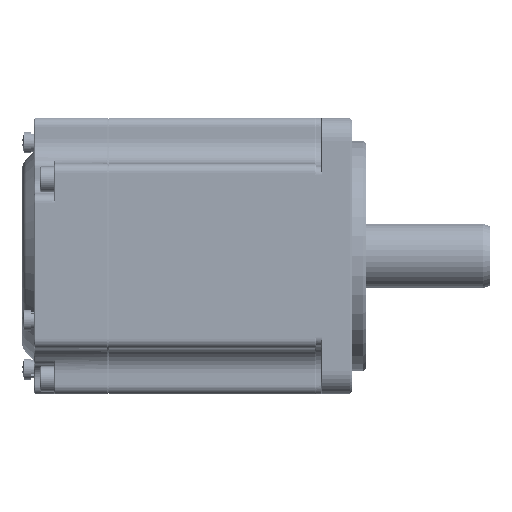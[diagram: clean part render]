
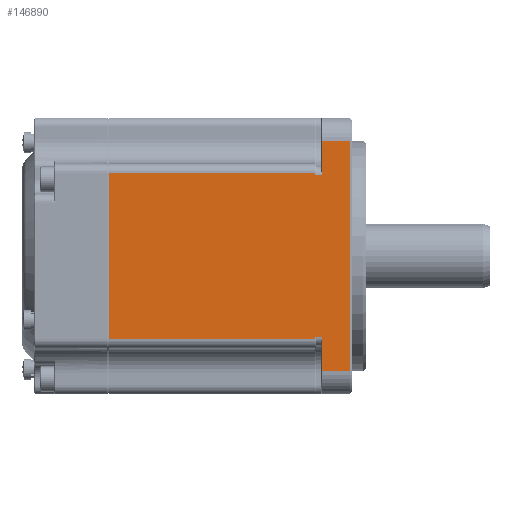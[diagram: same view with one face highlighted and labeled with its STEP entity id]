
A CAD part, front view. The second image highlights one B-rep face of the part: STEP entity #146890.
In plain terms, the highlighted planar face has unit normal (0, -1, 0).
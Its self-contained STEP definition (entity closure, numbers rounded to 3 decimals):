
#2679 = VECTOR ( 'NONE', #143625, 1000. ) ;
#5953 = EDGE_CURVE ( 'NONE', #11992, #76143, #140984, .T. ) ;
#7216 = VERTEX_POINT ( 'NONE', #51572 ) ;
#8967 = CARTESIAN_POINT ( 'NONE',  ( -114.001, -79.847, 163.323 ) ) ;
#9367 = CARTESIAN_POINT ( 'NONE',  ( -27.348, -79.847, 120.323 ) ) ;
#10181 = EDGE_LOOP ( 'NONE', ( #43757, #112998, #10726, #93420, #13031, #106988, #82189, #131146, #151254, #84979, #125781, #24429 ) ) ;
#10726 = ORIENTED_EDGE ( 'NONE', *, *, #71555, .T. ) ;
#11214 = CARTESIAN_POINT ( 'NONE',  ( 17.452, -79.847, 120.823 ) ) ;
#11388 = AXIS2_PLACEMENT_3D ( 'NONE', #101208, #91114, #104854 ) ;
#11992 = VERTEX_POINT ( 'NONE', #11214 ) ;
#12409 = EDGE_CURVE ( 'NONE', #156389, #31130, #146975, .T. ) ;
#12673 = FACE_OUTER_BOUND ( 'NONE', #10181, .T. ) ;
#13031 = ORIENTED_EDGE ( 'NONE', *, *, #14265, .T. ) ;
#13587 = VECTOR ( 'NONE', #131991, 1000. ) ;
#14265 = EDGE_CURVE ( 'NONE', #76143, #98615, #59013, .T. ) ;
#15978 = DIRECTION ( 'NONE',  ( 1., 0., 0. ) ) ;
#16388 = CARTESIAN_POINT ( 'NONE',  ( 17.652, -79.847, 155.823 ) ) ;
#17153 = CARTESIAN_POINT ( 'NONE',  ( 42.722, -79.847, 120.323 ) ) ;
#18352 = CARTESIAN_POINT ( 'NONE',  ( 19.052, -79.847, 163.323 ) ) ;
#18807 = CARTESIAN_POINT ( 'NONE',  ( 17.452, -79.847, 120.323 ) ) ;
#19055 = CARTESIAN_POINT ( 'NONE',  ( -27.348, -79.847, 156.323 ) ) ;
#21162 = VERTEX_POINT ( 'NONE', #81777 ) ;
#24429 = ORIENTED_EDGE ( 'NONE', *, *, #83343, .T. ) ;
#24967 = LINE ( 'NONE', #17153, #53358 ) ;
#26983 = CARTESIAN_POINT ( 'NONE',  ( 24.952, -79.847, 163.323 ) ) ;
#29790 = VERTEX_POINT ( 'NONE', #18807 ) ;
#30423 = LINE ( 'NONE', #90086, #115995 ) ;
#31130 = VERTEX_POINT ( 'NONE', #19055 ) ;
#34625 = CARTESIAN_POINT ( 'NONE',  ( 17.452, -79.847, 156.323 ) ) ;
#35341 = CARTESIAN_POINT ( 'NONE',  ( 19.052, -79.847, 113.323 ) ) ;
#41897 = CARTESIAN_POINT ( 'NONE',  ( -114.001, -79.847, 113.323 ) ) ;
#43757 = ORIENTED_EDGE ( 'NONE', *, *, #12409, .F. ) ;
#43985 = VECTOR ( 'NONE', #130104, 1000. ) ;
#45239 = CARTESIAN_POINT ( 'NONE',  ( 24.952, -79.847, 163.323 ) ) ;
#47467 = VECTOR ( 'NONE', #15978, 1000. ) ;
#47853 = LINE ( 'NONE', #126564, #66982 ) ;
#48671 = LINE ( 'NONE', #76593, #141939 ) ;
#49152 = CARTESIAN_POINT ( 'NONE',  ( 17.452, -79.847, 155.823 ) ) ;
#49549 = VECTOR ( 'NONE', #95923, 1000. ) ;
#51572 = CARTESIAN_POINT ( 'NONE',  ( 19.052, -79.847, 155.823 ) ) ;
#52096 = DIRECTION ( 'NONE',  ( -1., 0., 0. ) ) ;
#52157 = LINE ( 'NONE', #16388, #99886 ) ;
#53358 = VECTOR ( 'NONE', #53661, 1000. ) ;
#53661 = DIRECTION ( 'NONE',  ( -1., 0., 0. ) ) ;
#54323 = PLANE ( 'NONE',  #11388 ) ;
#54512 = VERTEX_POINT ( 'NONE', #18352 ) ;
#57184 = VERTEX_POINT ( 'NONE', #74043 ) ;
#59013 = LINE ( 'NONE', #156898, #13587 ) ;
#59578 = LINE ( 'NONE', #34625, #2679 ) ;
#60275 = EDGE_CURVE ( 'NONE', #98615, #57184, #91383, .T. ) ;
#66982 = VECTOR ( 'NONE', #118606, 1000. ) ;
#70871 = CARTESIAN_POINT ( 'NONE',  ( 17.652, -79.847, 120.823 ) ) ;
#71555 = EDGE_CURVE ( 'NONE', #29790, #11992, #47853, .T. ) ;
#74043 = CARTESIAN_POINT ( 'NONE',  ( 24.952, -79.847, 113.323 ) ) ;
#76143 = VERTEX_POINT ( 'NONE', #125933 ) ;
#76593 = CARTESIAN_POINT ( 'NONE',  ( 42.722, -79.847, 156.323 ) ) ;
#77940 = CARTESIAN_POINT ( 'NONE',  ( -27.348, -79.847, 168.323 ) ) ;
#78314 = DIRECTION ( 'NONE',  ( 0., 0., -1. ) ) ;
#81777 = CARTESIAN_POINT ( 'NONE',  ( 17.452, -79.847, 156.323 ) ) ;
#82189 = ORIENTED_EDGE ( 'NONE', *, *, #146048, .T. ) ;
#83343 = EDGE_CURVE ( 'NONE', #21162, #31130, #48671, .T. ) ;
#84290 = EDGE_CURVE ( 'NONE', #139766, #7216, #52157, .T. ) ;
#84979 = ORIENTED_EDGE ( 'NONE', *, *, #84290, .F. ) ;
#90086 = CARTESIAN_POINT ( 'NONE',  ( 19.052, -79.847, 168.323 ) ) ;
#90256 = DIRECTION ( 'NONE',  ( 0., 0., 1. ) ) ;
#91114 = DIRECTION ( 'NONE',  ( 0., -1., 0. ) ) ;
#91383 = LINE ( 'NONE', #41897, #47467 ) ;
#93420 = ORIENTED_EDGE ( 'NONE', *, *, #5953, .T. ) ;
#93742 = VECTOR ( 'NONE', #90256, 1000. ) ;
#95923 = DIRECTION ( 'NONE',  ( 1., 0., 0. ) ) ;
#98615 = VERTEX_POINT ( 'NONE', #35341 ) ;
#99886 = VECTOR ( 'NONE', #101394, 1000. ) ;
#101208 = CARTESIAN_POINT ( 'NONE',  ( -114.001, -79.847, 168.323 ) ) ;
#101394 = DIRECTION ( 'NONE',  ( 1., 0., 0. ) ) ;
#104854 = DIRECTION ( 'NONE',  ( 0., 0., -1. ) ) ;
#105751 = EDGE_CURVE ( 'NONE', #54512, #7216, #30423, .T. ) ;
#105938 = LINE ( 'NONE', #26983, #132526 ) ;
#106988 = ORIENTED_EDGE ( 'NONE', *, *, #60275, .T. ) ;
#112998 = ORIENTED_EDGE ( 'NONE', *, *, #131857, .F. ) ;
#115995 = VECTOR ( 'NONE', #78314, 1000. ) ;
#118606 = DIRECTION ( 'NONE',  ( 0., 0., 1. ) ) ;
#125781 = ORIENTED_EDGE ( 'NONE', *, *, #141189, .T. ) ;
#125819 = LINE ( 'NONE', #8967, #43985 ) ;
#125933 = CARTESIAN_POINT ( 'NONE',  ( 19.052, -79.847, 120.823 ) ) ;
#126564 = CARTESIAN_POINT ( 'NONE',  ( 17.452, -79.847, 120.823 ) ) ;
#130104 = DIRECTION ( 'NONE',  ( -1., 0., 0. ) ) ;
#131146 = ORIENTED_EDGE ( 'NONE', *, *, #131290, .T. ) ;
#131290 = EDGE_CURVE ( 'NONE', #141144, #54512, #125819, .T. ) ;
#131857 = EDGE_CURVE ( 'NONE', #29790, #156389, #24967, .T. ) ;
#131991 = DIRECTION ( 'NONE',  ( 0., 0., -1. ) ) ;
#132526 = VECTOR ( 'NONE', #138031, 1000. ) ;
#138031 = DIRECTION ( 'NONE',  ( 0., 0., 1. ) ) ;
#139766 = VERTEX_POINT ( 'NONE', #49152 ) ;
#140984 = LINE ( 'NONE', #70871, #49549 ) ;
#141144 = VERTEX_POINT ( 'NONE', #45239 ) ;
#141189 = EDGE_CURVE ( 'NONE', #139766, #21162, #59578, .T. ) ;
#141939 = VECTOR ( 'NONE', #52096, 1000. ) ;
#143625 = DIRECTION ( 'NONE',  ( 0., 0., 1. ) ) ;
#146048 = EDGE_CURVE ( 'NONE', #57184, #141144, #105938, .T. ) ;
#146890 = ADVANCED_FACE ( 'NONE', ( #12673 ), #54323, .T. ) ;
#146975 = LINE ( 'NONE', #77940, #93742 ) ;
#151254 = ORIENTED_EDGE ( 'NONE', *, *, #105751, .T. ) ;
#156389 = VERTEX_POINT ( 'NONE', #9367 ) ;
#156898 = CARTESIAN_POINT ( 'NONE',  ( 19.052, -79.847, 168.323 ) ) ;
